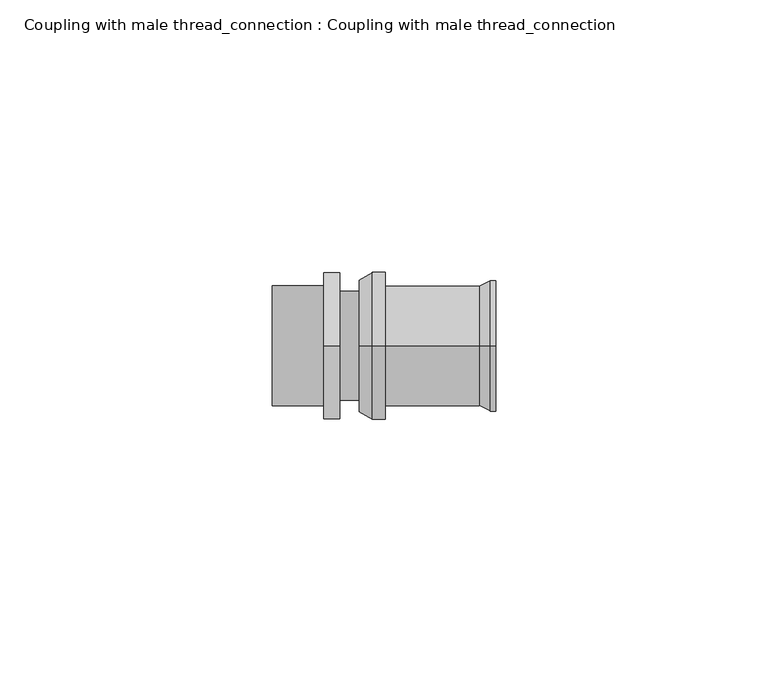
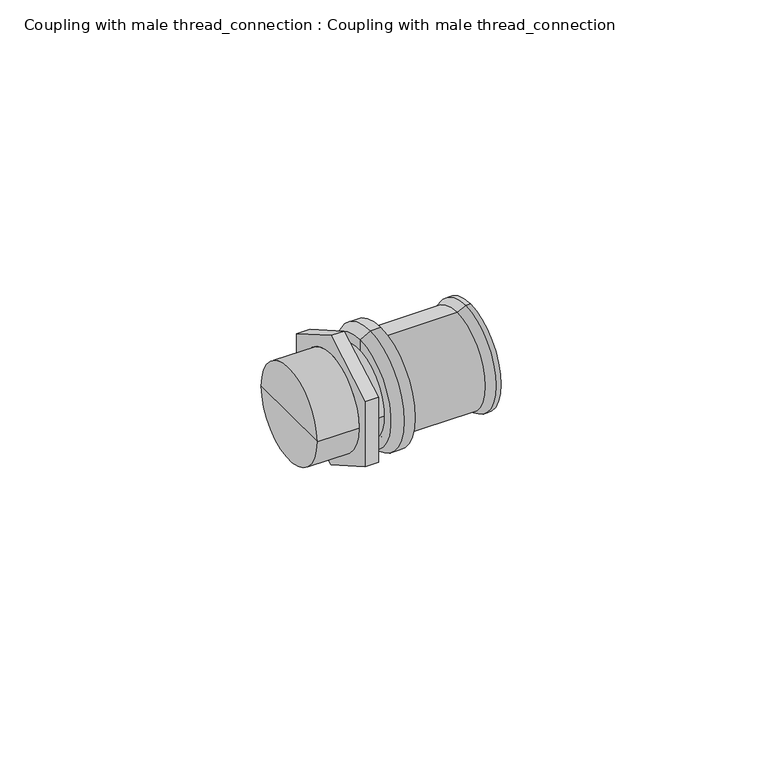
"""IFC4 building model written with IfcOpenShell, lengths in millimetres: pipe fitting geometry, Coupling with male thread_connection : Coupling with male thread_connection."""

from ifc_helpers import new_model, si_unit, frame, origin, place, context, project, spatial, polyline, circle_curve, source, transform, mapped, element, save
from ifc_brep_helpers import plane_surface, cylinder_surface, revolved_surface, advanced_brep


def coupling_with_male_thread_connection_coupling_with_male_7d60740d(model_context):
    return source(origin(), model_context, "Body", "AdvancedBrep", [
        advanced_brep(
        [(-1.0, 0.0, 0.0), (-1.0, 0.0, 12.1432269), (-1.0, 0.0, -12.1432269), (3.7, 0.0, -13.5), (3.7, 0.0, 13.5), (3.7, 0.0, 0.0), (1.35, 0.0, -13.5), (1.35, 0.0, 13.5)],
        [
            (0, 1),
            (1, 2, circle_curve(frame((-1.0, 0.0, 0.0), z_axis=(-1.0, 0.0, 0.0), x_axis=(0.0, 0.0, 1.0)), 12.1432269)),
            (2, 0),
            (2, 1, circle_curve(frame((-1.0, 0.0, 0.0), z_axis=(-1.0, 0.0, 0.0), x_axis=(0.0, 0.0, 1.0)), 12.1432269)),
            (3, 4, circle_curve(frame((3.7, 0.0, 0.0), z_axis=(1.0, 0.0, 0.0), x_axis=(0.0, 0.0, 1.0)), 13.5)),
            (4, 5),
            (5, 3),
            (4, 3, circle_curve(frame((3.7, 0.0, 0.0), z_axis=(1.0, 0.0, 0.0), x_axis=(0.0, 0.0, 1.0)), 13.5)),
            (6, 7, circle_curve(frame((1.35, 0.0, 0.0), z_axis=(1.0, 0.0, 0.0), x_axis=(0.0, 0.0, 1.0)), 13.5)),
            (7, 4),
            (3, 6),
            (7, 6, circle_curve(frame((1.35, 0.0, 0.0), z_axis=(1.0, 0.0, 0.0), x_axis=(0.0, 0.0, 1.0)), 13.5)),
            (1, 7),
            (6, 2),
        ],
        [
            plane_surface(frame((-1.0, 0.0, 0.0), z_axis=(-1.0, 0.0, 0.0), x_axis=(0.0, 0.0, 1.0))),
            plane_surface(frame((3.7, 0.0, 0.0), z_axis=(1.0, 0.0, 0.0), x_axis=(0.0, 0.0, 1.0))),
            cylinder_surface(frame((0.0, 0.0, 0.0), z_axis=(-1.0, 0.0, 0.0), x_axis=(0.0, 0.0, 1.0)), 13.5),
            revolved_surface(polyline([(1.35, 0.0, 13.5), (-1.0, 0.0, 12.1432269)]), (0.0, 0.0, 0.0), (-1.0, 0.0, 0.0)),
        ],
        [
            (0, [[1, 2, 3]]),
            (0, [[-3, 4, -1]]),
            (1, [[5, 6, 7]]),
            (1, [[8, -7, -6]]),
            (2, [[9, 10, -5, 11]]),
            (2, [[12, -11, -8, -10]]),
            (3, [[-2, 13, -9, 14]]),
            (3, [[-4, -14, -12, -13]]),
        ],
    ),
        advanced_brep(
        [(3.7, 0.0, -11.0), (3.7, 0.0, 11.0), (21.0, 0.0, 11.0), (21.0, 0.0, -11.0), (24.0, 0.0, -12.0), (24.0, 0.0, 12.0), (24.0, 0.0, 0.0), (3.7, 0.0, 0.0), (23.0, 0.0, -12.0), (23.0, 0.0, 12.0)],
        [
            (0, 1, circle_curve(frame((3.7, 0.0, 0.0), z_axis=(1.0, 0.0, 0.0), x_axis=(0.0, 0.0, 1.0)), 11.0)),
            (1, 2),
            (2, 3, circle_curve(frame((21.0, 0.0, 0.0), z_axis=(-1.0, 0.0, 0.0), x_axis=(0.0, 0.0, 1.0)), 11.0)),
            (3, 0),
            (1, 0, circle_curve(frame((3.7, 0.0, 0.0), z_axis=(1.0, 0.0, 0.0), x_axis=(0.0, 0.0, 1.0)), 11.0)),
            (3, 2, circle_curve(frame((21.0, 0.0, 0.0), z_axis=(-1.0, 0.0, 0.0), x_axis=(0.0, 0.0, 1.0)), 11.0)),
            (4, 5, circle_curve(frame((24.0, 0.0, 0.0), z_axis=(1.0, 0.0, 0.0), x_axis=(0.0, 0.0, 1.0)), 12.0)),
            (5, 6),
            (6, 4),
            (5, 4, circle_curve(frame((24.0, 0.0, 0.0), z_axis=(1.0, 0.0, 0.0), x_axis=(0.0, 0.0, 1.0)), 12.0)),
            (7, 1),
            (0, 7),
            (8, 9, circle_curve(frame((23.0, 0.0, 0.0), z_axis=(1.0, 0.0, 0.0), x_axis=(0.0, 0.0, 1.0)), 12.0)),
            (9, 5),
            (4, 8),
            (9, 8, circle_curve(frame((23.0, 0.0, 0.0), z_axis=(1.0, 0.0, 0.0), x_axis=(0.0, 0.0, 1.0)), 12.0)),
            (2, 9),
            (8, 3),
        ],
        [
            cylinder_surface(frame((-1911.8038476, 0.0, 0.0), z_axis=(-1.0, 0.0, 0.0), x_axis=(0.0, 0.0, 1.0)), 11.0),
            plane_surface(frame((24.0, 0.0, 0.0), z_axis=(1.0, 0.0, 0.0), x_axis=(0.0, 0.0, 1.0))),
            plane_surface(frame((3.7, 0.0, 0.0), z_axis=(-1.0, 0.0, 0.0), x_axis=(0.0, 0.0, 1.0))),
            cylinder_surface(frame((-1911.8038476, 0.0, 0.0), z_axis=(-1.0, 0.0, 0.0), x_axis=(0.0, 0.0, 1.0)), 12.0),
            revolved_surface(polyline([(23.0, 0.0, 12.0), (21.0, 0.0, 11.0)]), (-1911.8038476, 0.0, 0.0), (-1.0, 0.0, 0.0)),
        ],
        [
            (0, [[1, 2, 3, 4]]),
            (0, [[5, -4, 6, -2]]),
            (1, [[7, 8, 9]]),
            (1, [[10, -9, -8]]),
            (2, [[11, -1, 12]]),
            (2, [[-12, -5, -11]]),
            (3, [[13, 14, -7, 15]]),
            (3, [[16, -15, -10, -14]]),
            (4, [[-3, 17, -13, 18]]),
            (4, [[-6, -18, -16, -17]]),
        ],
    ),
        advanced_brep(
        [(-17.0, -11.0, 0.0), (-17.0, 11.0, 0.0), (-7.578675, 11.0, 0.0), (-7.578675, -11.0, 0.0), (-17.0, 0.0, 0.0), (0.0, -10.0, 0.0), (0.0, 10.0, 0.0), (0.0, 0.0, 0.0), (-4.578675, -10.0, 0.0), (-4.578675, 10.0, 0.0), (-4.578675, -13.4233938, 7.75), (-4.578675, -13.4233938, -7.75), (-4.578675, 0.0, -15.5), (-4.578675, 13.4233938, -7.75), (-4.578675, 13.4233938, 7.75), (-4.578675, 0.0, 15.5), (-7.578675, -13.4233938, 7.75), (-7.578675, 0.0, 15.5), (-7.578675, 13.4233938, 7.75), (-7.578675, 13.4233938, -7.75), (-7.578675, 0.0, -15.5), (-7.578675, -13.4233938, -7.75)],
        [
            (0, 1, circle_curve(frame((-17.0, 0.0, 0.0), z_axis=(1.0, 0.0, 0.0), x_axis=(0.0, 1.0, 0.0)), 11.0)),
            (1, 2),
            (2, 3, circle_curve(frame((-7.578675, 0.0, 0.0), z_axis=(-1.0, 0.0, 0.0), x_axis=(0.0, 1.0, 0.0)), 11.0)),
            (3, 0),
            (1, 0, circle_curve(frame((-17.0, 0.0, 0.0), z_axis=(1.0, 0.0, 0.0), x_axis=(0.0, 1.0, 0.0)), 11.0)),
            (3, 2, circle_curve(frame((-7.578675, 0.0, 0.0), z_axis=(-1.0, 0.0, 0.0), x_axis=(0.0, 1.0, 0.0)), 11.0)),
            (0, 4),
            (4, 1),
            (5, 6, circle_curve(frame((0.0, 0.0, 0.0), z_axis=(1.0, 0.0, 0.0), x_axis=(0.0, 1.0, 0.0)), 10.0)),
            (6, 7),
            (7, 5),
            (6, 5, circle_curve(frame((0.0, 0.0, 0.0), z_axis=(1.0, 0.0, 0.0), x_axis=(0.0, 1.0, 0.0)), 10.0)),
            (5, 8),
            (8, 9, circle_curve(frame((-4.578675, 0.0, 0.0), z_axis=(1.0, 0.0, 0.0), x_axis=(0.0, 1.0, 0.0)), 10.0)),
            (9, 6),
            (9, 8, circle_curve(frame((-4.578675, 0.0, 0.0), z_axis=(1.0, 0.0, 0.0), x_axis=(0.0, 1.0, 0.0)), 10.0)),
            (10, 11),
            (11, 12),
            (12, 13),
            (13, 14),
            (14, 15),
            (15, 10),
            (16, 17),
            (17, 18),
            (18, 19),
            (19, 20),
            (20, 21),
            (21, 16),
            (10, 16),
            (21, 11),
            (20, 12),
            (19, 13),
            (18, 14),
            (17, 15),
        ],
        [
            cylinder_surface(frame((0.0, 0.0, 0.0), z_axis=(-1.0, 0.0, 0.0), x_axis=(0.0, 1.0, 0.0)), 11.0),
            plane_surface(frame((-17.0, 0.0, 0.0), z_axis=(-1.0, 0.0, 0.0), x_axis=(0.0, 1.0, 0.0))),
            plane_surface(frame((0.0, 0.0, 0.0), z_axis=(1.0, 0.0, 0.0), x_axis=(0.0, 1.0, 0.0))),
            cylinder_surface(frame((0.0, 0.0, 0.0), z_axis=(-1.0, 0.0, 0.0), x_axis=(0.0, 1.0, 0.0)), 10.0),
            plane_surface(frame((-4.578675, -13.4233938, 7.75), z_axis=(1.0, 0.0, 0.0), x_axis=(0.0, 0.0, -1.0))),
            plane_surface(frame((-7.578675, -13.4233938, 7.75), z_axis=(-1.0, 0.0, 0.0), x_axis=(0.0, 0.0, 1.0))),
            plane_surface(frame((-4.578675, -13.4233938, 7.75), z_axis=(0.0, -1.0, 0.0), x_axis=(-1.0, 0.0, 0.0))),
            plane_surface(frame((-4.578675, -13.4233938, -7.75), z_axis=(0.0, -0.5000000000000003, -0.8660254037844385), x_axis=(-1.0, 0.0, 0.0))),
            plane_surface(frame((-4.578675, 0.0, -15.5), z_axis=(0.0, 0.5000000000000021, -0.8660254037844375), x_axis=(-1.0, 0.0, 0.0))),
            plane_surface(frame((-4.578675, 13.4233938, -7.75), z_axis=(0.0, 1.0, 0.0), x_axis=(-1.0, 0.0, 0.0))),
            plane_surface(frame((-4.578675, 13.4233938, 7.75), z_axis=(0.0, 0.5000000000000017, 0.8660254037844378), x_axis=(-1.0, 0.0, 0.0))),
            plane_surface(frame((-4.578675, 0.0, 15.5), z_axis=(0.0, -0.5000000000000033, 0.8660254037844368), x_axis=(-1.0, 0.0, 0.0))),
        ],
        [
            (0, [[1, 2, 3, 4]]),
            (0, [[-2, 5, -4, 6]]),
            (1, [[-1, 7, 8]]),
            (1, [[-5, -8, -7]]),
            (2, [[9, 10, 11]]),
            (2, [[-10, 12, -11]]),
            (3, [[-9, 13, 14, 15]]),
            (3, [[-12, -15, 16, -13]]),
            (4, [[17, 18, 19, 20, 21, 22], [-14, -16]]),
            (5, [[23, 24, 25, 26, 27, 28], [-3, -6]]),
            (6, [[-17, 29, -28, 30]]),
            (7, [[-18, -30, -27, 31]]),
            (8, [[-19, -31, -26, 32]]),
            (9, [[-20, -32, -25, 33]]),
            (10, [[-21, -33, -24, 34]]),
            (11, [[-22, -34, -23, -29]]),
        ],
    ),
    ])


if __name__ == "__main__":
    model = new_model("IFC4")
    model_context = context("Model", 3, world=origin())
    ifc_project = project(units=[si_unit("LENGTHUNIT", "METRE", prefix="MILLI")], contexts=[model_context])
    site = spatial("IfcSite", under=ifc_project)
    building = spatial("IfcBuilding", under=site)
    placement = place(None, origin())
    coupling_with_male_thread_connection_coupling_with_male_shape = coupling_with_male_thread_connection_coupling_with_male_7d60740d(model_context)
    element("IfcPipeFitting", 1, ObjectType="Coupling with male thread_connection : Coupling with male thread_connection", at=placement, inside=building, context=model_context, shape_type="MappedRepresentation", body=[
        mapped(coupling_with_male_thread_connection_coupling_with_male_shape, transform((0.0, 0.0, 0.0), x_axis=(1.0, 0.0, 0.0), y_axis=(0.0, 1.0, 0.0), z_axis=(0.0, 0.0, 1.0))),
    ])
    save(model, "model.ifc")
